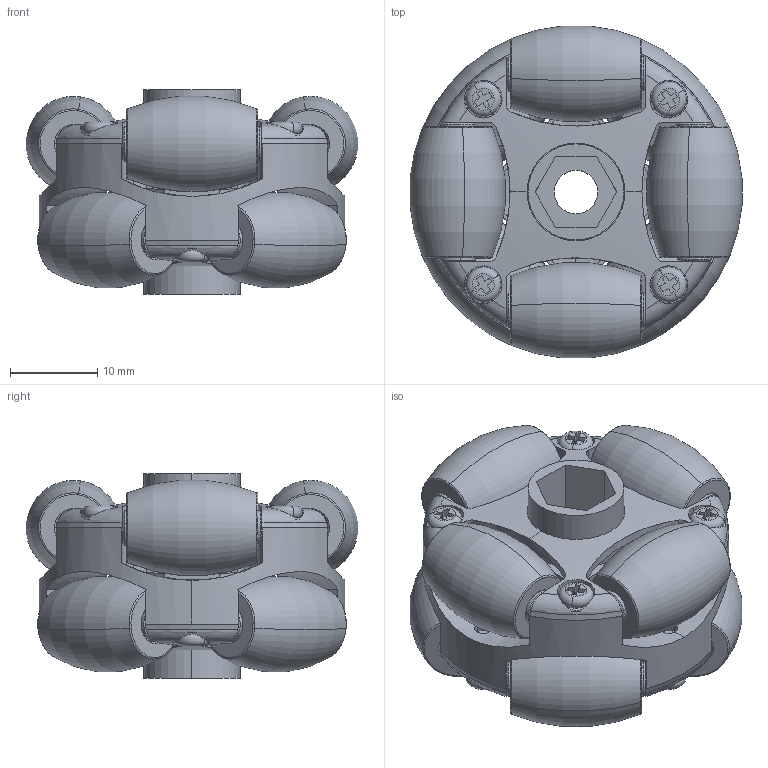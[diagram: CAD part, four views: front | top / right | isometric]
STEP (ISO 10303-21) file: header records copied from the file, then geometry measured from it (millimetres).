
FILE_DESCRIPTION (( 'STEP AP203' ), '1' );
FILE_NAME ('14184.STEP', '2015-06-10T07:48:20', ( 'Sky123.Org' ), ( 'Sky123.Org' ), 'SwSTEP 2.0', 'SolidWorks 2014', '' );
FILE_SCHEMA (( 'CONFIG_CONTROL_DESIGN' ));
Length unit declared in the file: millimetre
Products named in the file (8): す帣赻馴(M2.6X5); 14166-4 1.5渡90僅說倛謫; 1.5寸塑胶款90度4分车轮小轮子组合; 14184; 14166-5 1.5寸90度轮赛钢套; 14184-2 1.5寸塑胶款90度轮固定片; 14184-1 1.5寸塑胶款90度轮中心件; 14166-6 1.5渡90僅謫苤謫粣
Assembly tree (23 placements, depth 3):
  14184
    14184-1 1.5寸塑胶款90度轮中心件
    1.5寸塑胶款90度4分车轮小轮子组合  x8
      14166-4 1.5渡90僅說倛謫
      14166-5 1.5寸90度轮赛钢套
      14166-6 1.5渡90僅謫苤謫粣
    14184-2 1.5寸塑胶款90度轮固定片  x2
    す帣赻馴(M2.6X5)  x8
Bounding box: 37.98 x 37.98 x 23.4 mm (x, y, z)
Volume: 15355.2 mm3; surface area: 16310.3 mm2
Topology: 43 solids, 43 shells, 997 faces, 2420 edges, 1526 vertices
Faces by surface type: plane 392, cylinder 313, cone 216, torus 76
Entity records: 14004 total; most frequent: CARTESIAN_POINT 3494, ORIENTED_EDGE 2022, DIRECTION 1856, EDGE_CURVE 1011, VERTEX_POINT 663, AXIS2_PLACEMENT_3D 639, VECTOR 578, LINE 578
